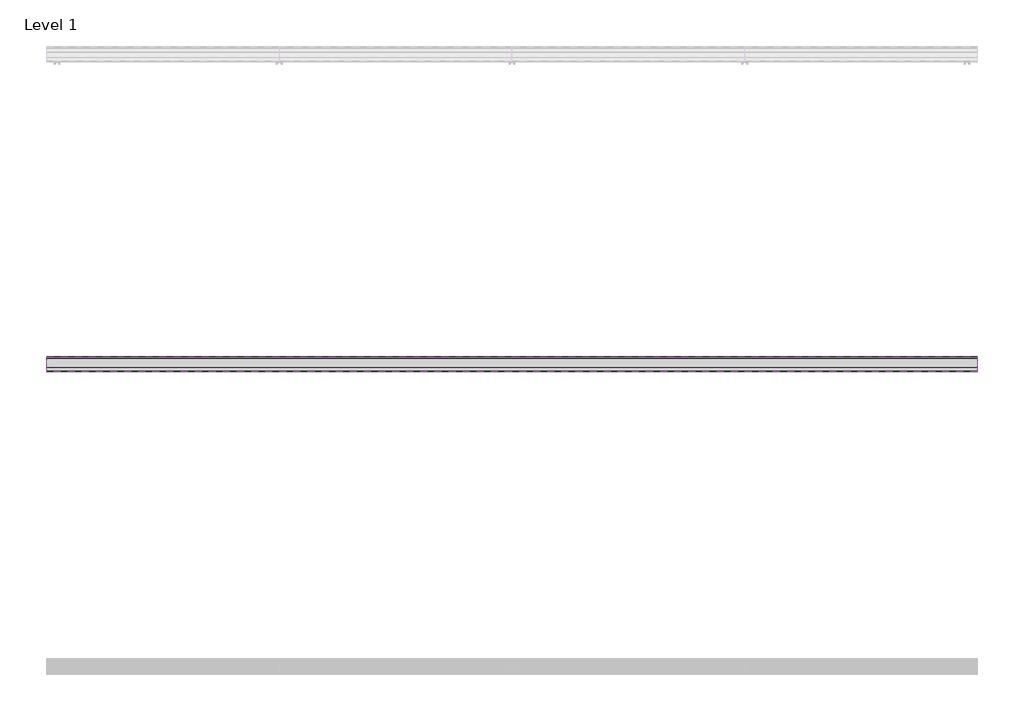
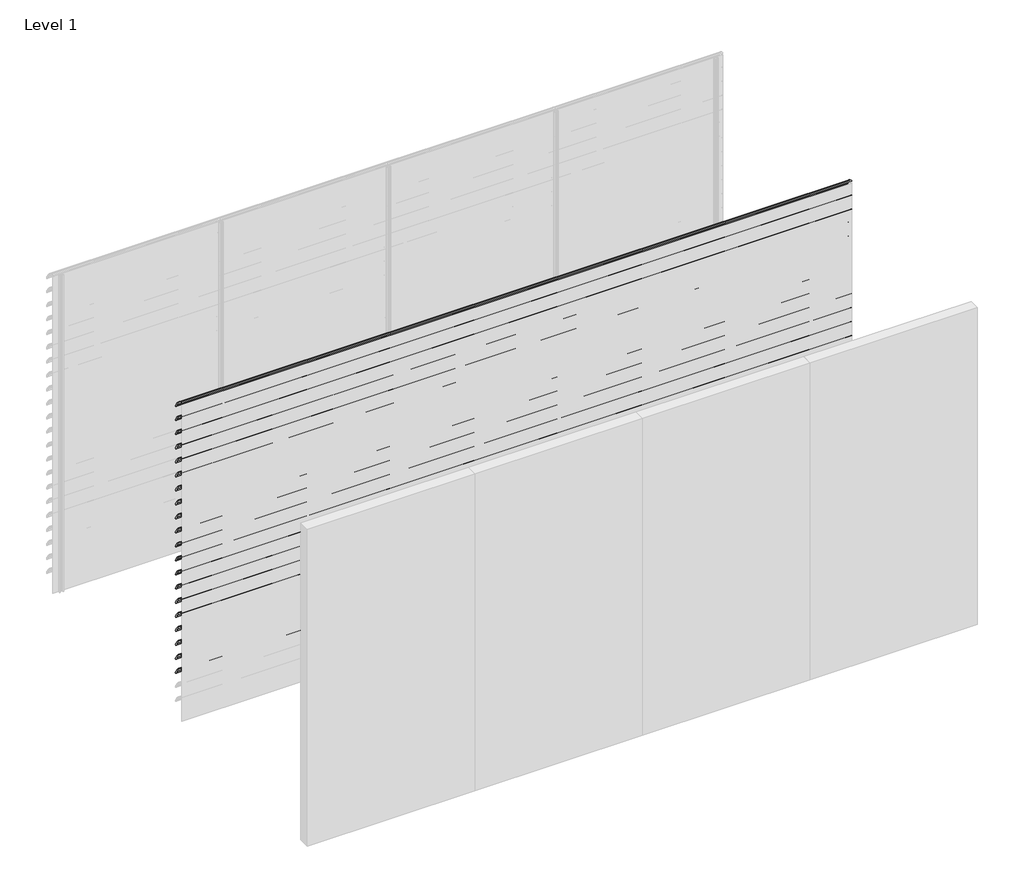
# One storey, part 47 of 57: 20 proxies.
"""IFC4 building model written with IfcOpenShell, lengths in millimetres."""

from ifc_helpers import new_model, si_unit, point, frame, frame_2d, origin, place, context, project, spatial, polyline, circle_curve, trimmed, segment, composite_curve, outline, extrude, element, save

model = new_model("IFC4")

# Units and contexts
model_context = context("Model", 3, world=origin())
ifc_project = project(units=[si_unit("LENGTHUNIT", "METRE", prefix="MILLI")], contexts=[model_context])

# Site, building, storey
site = spatial("IfcSite", under=ifc_project)
building = spatial("IfcBuilding", under=site)
storey = spatial("IfcBuildingStorey", under=building, Name="Level 1", Elevation=0.0)

# Proxies
placement = place(None, origin())
element("IfcBuildingElementProxy", 1, Name="Wall Sweeps", at=placement, inside=storey, context=model_context, shape_type="SweptSolid", body=[
    extrude(outline(composite_curve([segment(trimmed(circle_curve(frame_2d((-7993.7822526, 3016.4913792)), 4.2177474), [point((-7989.6985606, 3017.5462976))], [point((-7993.7822526, 3020.7091266))], False, "CARTESIAN"), True, "CONTINUOUS"), segment(trimmed(circle_curve(frame_2d((-8018.7150834, 2918.2536312)), 105.4456002), [point((-7993.7822526, 3020.7091266))], [point((-7971.7914298, 3012.6832099))], False, "CARTESIAN"), True, "CONTINUOUS"), segment(trimmed(circle_curve(frame_2d((-8061.7199745, 2864.0352476)), 173.7335887), [point((-7971.7914298, 3012.6832099))], [point((-7913.0720121, 2953.9637922))], False, "CARTESIAN"), True, "CONTINUOUS"), segment(trimmed(circle_curve(frame_2d((-8004.9297178, 2902.1860314)), 105.4456002), [point((-7913.0720121, 2953.9637922))], [point((-7903.6249616, 2931.4455765))], False, "CARTESIAN"), True, "CONTINUOUS"), segment(trimmed(circle_curve(frame_2d((-7907.809737, 2930.3307305)), 4.3307305), [point((-7903.6249616, 2931.4455765))], [point((-7909.0769196, 2926.189538))], False, "CARTESIAN"), True, "CONTINUOUS"), segment(polyline([(-7909.0769196, 2926.189538), (-7934.7401984, 2950.9722783)]), True, "CONTINUOUS"), segment(trimmed(circle_curve(frame_2d((-7931.3879574, 2953.2977626)), 4.079877), [point((-7934.7401984, 2950.9722783))], [point((-7930.7310597, 2957.3244091))], False, "CARTESIAN"), True, "CONTINUOUS"), segment(trimmed(circle_curve(frame_2d((-8014.6665585, 2935.2544323)), 86.7885467), [point((-7930.7310597, 2957.3244091))], [point((-7942.3028351, 2983.1683485))], True, "CARTESIAN"), True, "CONTINUOUS"), segment(polyline([(-7942.3028351, 2983.1683485), (-7940.7230099, 2985.9046861)]), True, "CONTINUOUS"), segment(trimmed(circle_curve(frame_2d((-8061.7199745, 2864.0352476)), 171.7335887), [point((-7940.7230099, 2985.9046861))], [point((-7972.7555872, 3010.9289618))], True, "CARTESIAN"), True, "CONTINUOUS"), segment(trimmed(circle_curve(frame_2d((-8018.7150834, 2918.2536312)), 103.4456002), [point((-7972.7555872, 3010.9289618))], [point((-7989.6985606, 3017.5462976))], True, "CARTESIAN"), True, "CONTINUOUS")], self_intersect=False)), frame((0.0, 0.0, 0.0), z_axis=(1.0, 0.0, 0.0), x_axis=(0.0, 1.0, 0.0)), (0.0, 0.0, 1.0), 6000.0),
])
element("IfcBuildingElementProxy", 2, Name="Wall Sweeps", at=placement, inside=storey, context=model_context, shape_type="SweptSolid", body=[
    extrude(outline(composite_curve([segment(trimmed(circle_curve(frame_2d((-7993.7822526, 2883.4913792)), 4.2177474), [point((-7989.6985606, 2884.5462976))], [point((-7993.7822526, 2887.7091266))], False, "CARTESIAN"), True, "CONTINUOUS"), segment(trimmed(circle_curve(frame_2d((-8018.7150834, 2785.2536312)), 105.4456002), [point((-7993.7822526, 2887.7091266))], [point((-7971.7914298, 2879.6832099))], False, "CARTESIAN"), True, "CONTINUOUS"), segment(trimmed(circle_curve(frame_2d((-8061.7199745, 2731.0352476)), 173.7335887), [point((-7971.7914298, 2879.6832099))], [point((-7913.0720121, 2820.9637922))], False, "CARTESIAN"), True, "CONTINUOUS"), segment(trimmed(circle_curve(frame_2d((-8004.9297178, 2769.1860314)), 105.4456002), [point((-7913.0720121, 2820.9637922))], [point((-7903.6249616, 2798.4455765))], False, "CARTESIAN"), True, "CONTINUOUS"), segment(trimmed(circle_curve(frame_2d((-7907.809737, 2797.3307305)), 4.3307305), [point((-7903.6249616, 2798.4455765))], [point((-7909.0769196, 2793.189538))], False, "CARTESIAN"), True, "CONTINUOUS"), segment(polyline([(-7909.0769196, 2793.189538), (-7934.7401984, 2817.9722783)]), True, "CONTINUOUS"), segment(trimmed(circle_curve(frame_2d((-7931.3879574, 2820.2977626)), 4.079877), [point((-7934.7401984, 2817.9722783))], [point((-7930.7310597, 2824.3244091))], False, "CARTESIAN"), True, "CONTINUOUS"), segment(trimmed(circle_curve(frame_2d((-8014.6665585, 2802.2544323)), 86.7885467), [point((-7930.7310597, 2824.3244091))], [point((-7942.3028351, 2850.1683485))], True, "CARTESIAN"), True, "CONTINUOUS"), segment(polyline([(-7942.3028351, 2850.1683485), (-7940.7230099, 2852.9046861)]), True, "CONTINUOUS"), segment(trimmed(circle_curve(frame_2d((-8061.7199745, 2731.0352476)), 171.7335887), [point((-7940.7230099, 2852.9046861))], [point((-7972.7555872, 2877.9289618))], True, "CARTESIAN"), True, "CONTINUOUS"), segment(trimmed(circle_curve(frame_2d((-8018.7150834, 2785.2536312)), 103.4456002), [point((-7972.7555872, 2877.9289618))], [point((-7989.6985606, 2884.5462976))], True, "CARTESIAN"), True, "CONTINUOUS")], self_intersect=False)), frame((0.0, 0.0, 0.0), z_axis=(1.0, 0.0, 0.0), x_axis=(0.0, 1.0, 0.0)), (0.0, 0.0, 1.0), 6000.0),
])
element("IfcBuildingElementProxy", 3, Name="Wall Sweeps", at=placement, inside=storey, context=model_context, shape_type="SweptSolid", body=[
    extrude(outline(composite_curve([segment(trimmed(circle_curve(frame_2d((-7993.7822526, 2750.4913792)), 4.2177474), [point((-7989.6985606, 2751.5462976))], [point((-7993.7822526, 2754.7091266))], False, "CARTESIAN"), True, "CONTINUOUS"), segment(trimmed(circle_curve(frame_2d((-8018.7150834, 2652.2536312)), 105.4456002), [point((-7993.7822526, 2754.7091266))], [point((-7971.7914298, 2746.6832099))], False, "CARTESIAN"), True, "CONTINUOUS"), segment(trimmed(circle_curve(frame_2d((-8061.7199745, 2598.0352476)), 173.7335887), [point((-7971.7914298, 2746.6832099))], [point((-7913.0720121, 2687.9637922))], False, "CARTESIAN"), True, "CONTINUOUS"), segment(trimmed(circle_curve(frame_2d((-8004.9297178, 2636.1860314)), 105.4456002), [point((-7913.0720121, 2687.9637922))], [point((-7903.6249616, 2665.4455765))], False, "CARTESIAN"), True, "CONTINUOUS"), segment(trimmed(circle_curve(frame_2d((-7907.809737, 2664.3307305)), 4.3307305), [point((-7903.6249616, 2665.4455765))], [point((-7909.0769196, 2660.189538))], False, "CARTESIAN"), True, "CONTINUOUS"), segment(polyline([(-7909.0769196, 2660.189538), (-7934.7401984, 2684.9722783)]), True, "CONTINUOUS"), segment(trimmed(circle_curve(frame_2d((-7931.3879574, 2687.2977626)), 4.079877), [point((-7934.7401984, 2684.9722783))], [point((-7930.7310597, 2691.3244091))], False, "CARTESIAN"), True, "CONTINUOUS"), segment(trimmed(circle_curve(frame_2d((-8014.6665585, 2669.2544323)), 86.7885467), [point((-7930.7310597, 2691.3244091))], [point((-7942.3028351, 2717.1683485))], True, "CARTESIAN"), True, "CONTINUOUS"), segment(polyline([(-7942.3028351, 2717.1683485), (-7940.7230099, 2719.9046861)]), True, "CONTINUOUS"), segment(trimmed(circle_curve(frame_2d((-8061.7199745, 2598.0352476)), 171.7335887), [point((-7940.7230099, 2719.9046861))], [point((-7972.7555872, 2744.9289618))], True, "CARTESIAN"), True, "CONTINUOUS"), segment(trimmed(circle_curve(frame_2d((-8018.7150834, 2652.2536312)), 103.4456002), [point((-7972.7555872, 2744.9289618))], [point((-7989.6985606, 2751.5462976))], True, "CARTESIAN"), True, "CONTINUOUS")], self_intersect=False)), frame((0.0, 0.0, 0.0), z_axis=(1.0, 0.0, 0.0), x_axis=(0.0, 1.0, 0.0)), (0.0, 0.0, 1.0), 6000.0),
])
element("IfcBuildingElementProxy", 4, Name="Wall Sweeps", at=placement, inside=storey, context=model_context, shape_type="SweptSolid", body=[
    extrude(outline(composite_curve([segment(trimmed(circle_curve(frame_2d((-7993.7822526, 2617.4913792)), 4.2177474), [point((-7989.6985606, 2618.5462976))], [point((-7993.7822526, 2621.7091266))], False, "CARTESIAN"), True, "CONTINUOUS"), segment(trimmed(circle_curve(frame_2d((-8018.7150834, 2519.2536312)), 105.4456002), [point((-7993.7822526, 2621.7091266))], [point((-7971.7914298, 2613.6832099))], False, "CARTESIAN"), True, "CONTINUOUS"), segment(trimmed(circle_curve(frame_2d((-8061.7199745, 2465.0352476)), 173.7335887), [point((-7971.7914298, 2613.6832099))], [point((-7913.0720121, 2554.9637922))], False, "CARTESIAN"), True, "CONTINUOUS"), segment(trimmed(circle_curve(frame_2d((-8004.9297178, 2503.1860314)), 105.4456002), [point((-7913.0720121, 2554.9637922))], [point((-7903.6249616, 2532.4455765))], False, "CARTESIAN"), True, "CONTINUOUS"), segment(trimmed(circle_curve(frame_2d((-7907.809737, 2531.3307305)), 4.3307305), [point((-7903.6249616, 2532.4455765))], [point((-7909.0769196, 2527.189538))], False, "CARTESIAN"), True, "CONTINUOUS"), segment(polyline([(-7909.0769196, 2527.189538), (-7934.7401984, 2551.9722783)]), True, "CONTINUOUS"), segment(trimmed(circle_curve(frame_2d((-7931.3879574, 2554.2977626)), 4.079877), [point((-7934.7401984, 2551.9722783))], [point((-7930.7310597, 2558.3244091))], False, "CARTESIAN"), True, "CONTINUOUS"), segment(trimmed(circle_curve(frame_2d((-8014.6665585, 2536.2544323)), 86.7885467), [point((-7930.7310597, 2558.3244091))], [point((-7942.3028351, 2584.1683485))], True, "CARTESIAN"), True, "CONTINUOUS"), segment(polyline([(-7942.3028351, 2584.1683485), (-7940.7230099, 2586.9046861)]), True, "CONTINUOUS"), segment(trimmed(circle_curve(frame_2d((-8061.7199745, 2465.0352476)), 171.7335887), [point((-7940.7230099, 2586.9046861))], [point((-7972.7555872, 2611.9289618))], True, "CARTESIAN"), True, "CONTINUOUS"), segment(trimmed(circle_curve(frame_2d((-8018.7150834, 2519.2536312)), 103.4456002), [point((-7972.7555872, 2611.9289618))], [point((-7989.6985606, 2618.5462976))], True, "CARTESIAN"), True, "CONTINUOUS")], self_intersect=False)), frame((0.0, 0.0, 0.0), z_axis=(1.0, 0.0, 0.0), x_axis=(0.0, 1.0, 0.0)), (0.0, 0.0, 1.0), 6000.0),
])
element("IfcBuildingElementProxy", 5, Name="Wall Sweeps", at=placement, inside=storey, context=model_context, shape_type="SweptSolid", body=[
    extrude(outline(composite_curve([segment(trimmed(circle_curve(frame_2d((-7993.7822526, 2484.4913792)), 4.2177474), [point((-7989.6985606, 2485.5462976))], [point((-7993.7822526, 2488.7091266))], False, "CARTESIAN"), True, "CONTINUOUS"), segment(trimmed(circle_curve(frame_2d((-8018.7150834, 2386.2536312)), 105.4456002), [point((-7993.7822526, 2488.7091266))], [point((-7971.7914298, 2480.6832099))], False, "CARTESIAN"), True, "CONTINUOUS"), segment(trimmed(circle_curve(frame_2d((-8061.7199745, 2332.0352476)), 173.7335887), [point((-7971.7914298, 2480.6832099))], [point((-7913.0720121, 2421.9637922))], False, "CARTESIAN"), True, "CONTINUOUS"), segment(trimmed(circle_curve(frame_2d((-8004.9297178, 2370.1860314)), 105.4456002), [point((-7913.0720121, 2421.9637922))], [point((-7903.6249616, 2399.4455765))], False, "CARTESIAN"), True, "CONTINUOUS"), segment(trimmed(circle_curve(frame_2d((-7907.809737, 2398.3307305)), 4.3307305), [point((-7903.6249616, 2399.4455765))], [point((-7909.0769196, 2394.189538))], False, "CARTESIAN"), True, "CONTINUOUS"), segment(polyline([(-7909.0769196, 2394.189538), (-7934.7401984, 2418.9722783)]), True, "CONTINUOUS"), segment(trimmed(circle_curve(frame_2d((-7931.3879574, 2421.2977626)), 4.079877), [point((-7934.7401984, 2418.9722783))], [point((-7930.7310597, 2425.3244091))], False, "CARTESIAN"), True, "CONTINUOUS"), segment(trimmed(circle_curve(frame_2d((-8014.6665585, 2403.2544323)), 86.7885467), [point((-7930.7310597, 2425.3244091))], [point((-7942.3028351, 2451.1683485))], True, "CARTESIAN"), True, "CONTINUOUS"), segment(polyline([(-7942.3028351, 2451.1683485), (-7940.7230099, 2453.9046861)]), True, "CONTINUOUS"), segment(trimmed(circle_curve(frame_2d((-8061.7199745, 2332.0352476)), 171.7335887), [point((-7940.7230099, 2453.9046861))], [point((-7972.7555872, 2478.9289618))], True, "CARTESIAN"), True, "CONTINUOUS"), segment(trimmed(circle_curve(frame_2d((-8018.7150834, 2386.2536312)), 103.4456002), [point((-7972.7555872, 2478.9289618))], [point((-7989.6985606, 2485.5462976))], True, "CARTESIAN"), True, "CONTINUOUS")], self_intersect=False)), frame((0.0, 0.0, 0.0), z_axis=(1.0, 0.0, 0.0), x_axis=(0.0, 1.0, 0.0)), (0.0, 0.0, 1.0), 6000.0),
])
element("IfcBuildingElementProxy", 6, Name="Wall Sweeps", at=placement, inside=storey, context=model_context, shape_type="SweptSolid", body=[
    extrude(outline(composite_curve([segment(trimmed(circle_curve(frame_2d((-7993.7822526, 2351.4913792)), 4.2177474), [point((-7989.6985606, 2352.5462976))], [point((-7993.7822526, 2355.7091266))], False, "CARTESIAN"), True, "CONTINUOUS"), segment(trimmed(circle_curve(frame_2d((-8018.7150834, 2253.2536312)), 105.4456002), [point((-7993.7822526, 2355.7091266))], [point((-7971.7914298, 2347.6832099))], False, "CARTESIAN"), True, "CONTINUOUS"), segment(trimmed(circle_curve(frame_2d((-8061.7199745, 2199.0352476)), 173.7335887), [point((-7971.7914298, 2347.6832099))], [point((-7913.0720121, 2288.9637922))], False, "CARTESIAN"), True, "CONTINUOUS"), segment(trimmed(circle_curve(frame_2d((-8004.9297178, 2237.1860314)), 105.4456002), [point((-7913.0720121, 2288.9637922))], [point((-7903.6249616, 2266.4455765))], False, "CARTESIAN"), True, "CONTINUOUS"), segment(trimmed(circle_curve(frame_2d((-7907.809737, 2265.3307305)), 4.3307305), [point((-7903.6249616, 2266.4455765))], [point((-7909.0769196, 2261.189538))], False, "CARTESIAN"), True, "CONTINUOUS"), segment(polyline([(-7909.0769196, 2261.189538), (-7934.7401984, 2285.9722783)]), True, "CONTINUOUS"), segment(trimmed(circle_curve(frame_2d((-7931.3879574, 2288.2977626)), 4.079877), [point((-7934.7401984, 2285.9722783))], [point((-7930.7310597, 2292.3244091))], False, "CARTESIAN"), True, "CONTINUOUS"), segment(trimmed(circle_curve(frame_2d((-8014.6665585, 2270.2544323)), 86.7885467), [point((-7930.7310597, 2292.3244091))], [point((-7942.3028351, 2318.1683485))], True, "CARTESIAN"), True, "CONTINUOUS"), segment(polyline([(-7942.3028351, 2318.1683485), (-7940.7230099, 2320.9046861)]), True, "CONTINUOUS"), segment(trimmed(circle_curve(frame_2d((-8061.7199745, 2199.0352476)), 171.7335887), [point((-7940.7230099, 2320.9046861))], [point((-7972.7555872, 2345.9289618))], True, "CARTESIAN"), True, "CONTINUOUS"), segment(trimmed(circle_curve(frame_2d((-8018.7150834, 2253.2536312)), 103.4456002), [point((-7972.7555872, 2345.9289618))], [point((-7989.6985606, 2352.5462976))], True, "CARTESIAN"), True, "CONTINUOUS")], self_intersect=False)), frame((0.0, 0.0, 0.0), z_axis=(1.0, 0.0, 0.0), x_axis=(0.0, 1.0, 0.0)), (0.0, 0.0, 1.0), 6000.0),
])
element("IfcBuildingElementProxy", 7, Name="Wall Sweeps", at=placement, inside=storey, context=model_context, shape_type="SweptSolid", body=[
    extrude(outline(composite_curve([segment(trimmed(circle_curve(frame_2d((-7993.7822526, 2218.4913792)), 4.2177474), [point((-7989.6985606, 2219.5462976))], [point((-7993.7822526, 2222.7091266))], False, "CARTESIAN"), True, "CONTINUOUS"), segment(trimmed(circle_curve(frame_2d((-8018.7150834, 2120.2536312)), 105.4456002), [point((-7993.7822526, 2222.7091266))], [point((-7971.7914298, 2214.6832099))], False, "CARTESIAN"), True, "CONTINUOUS"), segment(trimmed(circle_curve(frame_2d((-8061.7199745, 2066.0352476)), 173.7335887), [point((-7971.7914298, 2214.6832099))], [point((-7913.0720121, 2155.9637922))], False, "CARTESIAN"), True, "CONTINUOUS"), segment(trimmed(circle_curve(frame_2d((-8004.9297178, 2104.1860314)), 105.4456002), [point((-7913.0720121, 2155.9637922))], [point((-7903.6249616, 2133.4455765))], False, "CARTESIAN"), True, "CONTINUOUS"), segment(trimmed(circle_curve(frame_2d((-7907.809737, 2132.3307305)), 4.3307305), [point((-7903.6249616, 2133.4455765))], [point((-7909.0769196, 2128.189538))], False, "CARTESIAN"), True, "CONTINUOUS"), segment(polyline([(-7909.0769196, 2128.189538), (-7934.7401984, 2152.9722783)]), True, "CONTINUOUS"), segment(trimmed(circle_curve(frame_2d((-7931.3879574, 2155.2977626)), 4.079877), [point((-7934.7401984, 2152.9722783))], [point((-7930.7310597, 2159.3244091))], False, "CARTESIAN"), True, "CONTINUOUS"), segment(trimmed(circle_curve(frame_2d((-8014.6665585, 2137.2544323)), 86.7885467), [point((-7930.7310597, 2159.3244091))], [point((-7942.3028351, 2185.1683485))], True, "CARTESIAN"), True, "CONTINUOUS"), segment(polyline([(-7942.3028351, 2185.1683485), (-7940.7230099, 2187.9046861)]), True, "CONTINUOUS"), segment(trimmed(circle_curve(frame_2d((-8061.7199745, 2066.0352476)), 171.7335887), [point((-7940.7230099, 2187.9046861))], [point((-7972.7555872, 2212.9289618))], True, "CARTESIAN"), True, "CONTINUOUS"), segment(trimmed(circle_curve(frame_2d((-8018.7150834, 2120.2536312)), 103.4456002), [point((-7972.7555872, 2212.9289618))], [point((-7989.6985606, 2219.5462976))], True, "CARTESIAN"), True, "CONTINUOUS")], self_intersect=False)), frame((0.0, 0.0, 0.0), z_axis=(1.0, 0.0, 0.0), x_axis=(0.0, 1.0, 0.0)), (0.0, 0.0, 1.0), 6000.0),
])
element("IfcBuildingElementProxy", 8, Name="Wall Sweeps", at=placement, inside=storey, context=model_context, shape_type="SweptSolid", body=[
    extrude(outline(composite_curve([segment(trimmed(circle_curve(frame_2d((-7993.7822526, 2085.4913792)), 4.2177474), [point((-7989.6985606, 2086.5462976))], [point((-7993.7822526, 2089.7091266))], False, "CARTESIAN"), True, "CONTINUOUS"), segment(trimmed(circle_curve(frame_2d((-8018.7150834, 1987.2536312)), 105.4456002), [point((-7993.7822526, 2089.7091266))], [point((-7971.7914298, 2081.6832099))], False, "CARTESIAN"), True, "CONTINUOUS"), segment(trimmed(circle_curve(frame_2d((-8061.7199745, 1933.0352476)), 173.7335887), [point((-7971.7914298, 2081.6832099))], [point((-7913.0720121, 2022.9637922))], False, "CARTESIAN"), True, "CONTINUOUS"), segment(trimmed(circle_curve(frame_2d((-8004.9297178, 1971.1860314)), 105.4456002), [point((-7913.0720121, 2022.9637922))], [point((-7903.6249616, 2000.4455765))], False, "CARTESIAN"), True, "CONTINUOUS"), segment(trimmed(circle_curve(frame_2d((-7907.809737, 1999.3307305)), 4.3307305), [point((-7903.6249616, 2000.4455765))], [point((-7909.0769196, 1995.189538))], False, "CARTESIAN"), True, "CONTINUOUS"), segment(polyline([(-7909.0769196, 1995.189538), (-7934.7401984, 2019.9722783)]), True, "CONTINUOUS"), segment(trimmed(circle_curve(frame_2d((-7931.3879574, 2022.2977626)), 4.079877), [point((-7934.7401984, 2019.9722783))], [point((-7930.7310597, 2026.3244091))], False, "CARTESIAN"), True, "CONTINUOUS"), segment(trimmed(circle_curve(frame_2d((-8014.6665585, 2004.2544323)), 86.7885467), [point((-7930.7310597, 2026.3244091))], [point((-7942.3028351, 2052.1683485))], True, "CARTESIAN"), True, "CONTINUOUS"), segment(polyline([(-7942.3028351, 2052.1683485), (-7940.7230099, 2054.9046861)]), True, "CONTINUOUS"), segment(trimmed(circle_curve(frame_2d((-8061.7199745, 1933.0352476)), 171.7335887), [point((-7940.7230099, 2054.9046861))], [point((-7972.7555872, 2079.9289618))], True, "CARTESIAN"), True, "CONTINUOUS"), segment(trimmed(circle_curve(frame_2d((-8018.7150834, 1987.2536312)), 103.4456002), [point((-7972.7555872, 2079.9289618))], [point((-7989.6985606, 2086.5462976))], True, "CARTESIAN"), True, "CONTINUOUS")], self_intersect=False)), frame((0.0, 0.0, 0.0), z_axis=(1.0, 0.0, 0.0), x_axis=(0.0, 1.0, 0.0)), (0.0, 0.0, 1.0), 6000.0),
])
element("IfcBuildingElementProxy", 9, Name="Wall Sweeps", at=placement, inside=storey, context=model_context, shape_type="SweptSolid", body=[
    extrude(outline(composite_curve([segment(trimmed(circle_curve(frame_2d((-7993.7822526, 1952.4913792)), 4.2177474), [point((-7989.6985606, 1953.5462976))], [point((-7993.7822526, 1956.7091266))], False, "CARTESIAN"), True, "CONTINUOUS"), segment(trimmed(circle_curve(frame_2d((-8018.7150834, 1854.2536312)), 105.4456002), [point((-7993.7822526, 1956.7091266))], [point((-7971.7914298, 1948.6832099))], False, "CARTESIAN"), True, "CONTINUOUS"), segment(trimmed(circle_curve(frame_2d((-8061.7199745, 1800.0352476)), 173.7335887), [point((-7971.7914298, 1948.6832099))], [point((-7913.0720121, 1889.9637922))], False, "CARTESIAN"), True, "CONTINUOUS"), segment(trimmed(circle_curve(frame_2d((-8004.9297178, 1838.1860314)), 105.4456002), [point((-7913.0720121, 1889.9637922))], [point((-7903.6249616, 1867.4455765))], False, "CARTESIAN"), True, "CONTINUOUS"), segment(trimmed(circle_curve(frame_2d((-7907.809737, 1866.3307305)), 4.3307305), [point((-7903.6249616, 1867.4455765))], [point((-7909.0769196, 1862.189538))], False, "CARTESIAN"), True, "CONTINUOUS"), segment(polyline([(-7909.0769196, 1862.189538), (-7934.7401984, 1886.9722783)]), True, "CONTINUOUS"), segment(trimmed(circle_curve(frame_2d((-7931.3879574, 1889.2977626)), 4.079877), [point((-7934.7401984, 1886.9722783))], [point((-7930.7310597, 1893.3244091))], False, "CARTESIAN"), True, "CONTINUOUS"), segment(trimmed(circle_curve(frame_2d((-8014.6665585, 1871.2544323)), 86.7885467), [point((-7930.7310597, 1893.3244091))], [point((-7942.3028351, 1919.1683485))], True, "CARTESIAN"), True, "CONTINUOUS"), segment(polyline([(-7942.3028351, 1919.1683485), (-7940.7230099, 1921.9046861)]), True, "CONTINUOUS"), segment(trimmed(circle_curve(frame_2d((-8061.7199745, 1800.0352476)), 171.7335887), [point((-7940.7230099, 1921.9046861))], [point((-7972.7555872, 1946.9289618))], True, "CARTESIAN"), True, "CONTINUOUS"), segment(trimmed(circle_curve(frame_2d((-8018.7150834, 1854.2536312)), 103.4456002), [point((-7972.7555872, 1946.9289618))], [point((-7989.6985606, 1953.5462976))], True, "CARTESIAN"), True, "CONTINUOUS")], self_intersect=False)), frame((0.0, 0.0, 0.0), z_axis=(1.0, 0.0, 0.0), x_axis=(0.0, 1.0, 0.0)), (0.0, 0.0, 1.0), 6000.0),
])
element("IfcBuildingElementProxy", 10, Name="Wall Sweeps", at=placement, inside=storey, context=model_context, shape_type="SweptSolid", body=[
    extrude(outline(composite_curve([segment(trimmed(circle_curve(frame_2d((-7993.7822526, 1819.4913792)), 4.2177474), [point((-7989.6985606, 1820.5462976))], [point((-7993.7822526, 1823.7091266))], False, "CARTESIAN"), True, "CONTINUOUS"), segment(trimmed(circle_curve(frame_2d((-8018.7150834, 1721.2536312)), 105.4456002), [point((-7993.7822526, 1823.7091266))], [point((-7971.7914298, 1815.6832099))], False, "CARTESIAN"), True, "CONTINUOUS"), segment(trimmed(circle_curve(frame_2d((-8061.7199745, 1667.0352476)), 173.7335887), [point((-7971.7914298, 1815.6832099))], [point((-7913.0720121, 1756.9637922))], False, "CARTESIAN"), True, "CONTINUOUS"), segment(trimmed(circle_curve(frame_2d((-8004.9297178, 1705.1860314)), 105.4456002), [point((-7913.0720121, 1756.9637922))], [point((-7903.6249616, 1734.4455765))], False, "CARTESIAN"), True, "CONTINUOUS"), segment(trimmed(circle_curve(frame_2d((-7907.809737, 1733.3307305)), 4.3307305), [point((-7903.6249616, 1734.4455765))], [point((-7909.0769196, 1729.189538))], False, "CARTESIAN"), True, "CONTINUOUS"), segment(polyline([(-7909.0769196, 1729.189538), (-7934.7401984, 1753.9722783)]), True, "CONTINUOUS"), segment(trimmed(circle_curve(frame_2d((-7931.3879574, 1756.2977626)), 4.079877), [point((-7934.7401984, 1753.9722783))], [point((-7930.7310597, 1760.3244091))], False, "CARTESIAN"), True, "CONTINUOUS"), segment(trimmed(circle_curve(frame_2d((-8014.6665585, 1738.2544323)), 86.7885467), [point((-7930.7310597, 1760.3244091))], [point((-7942.3028351, 1786.1683485))], True, "CARTESIAN"), True, "CONTINUOUS"), segment(polyline([(-7942.3028351, 1786.1683485), (-7940.7230099, 1788.9046861)]), True, "CONTINUOUS"), segment(trimmed(circle_curve(frame_2d((-8061.7199745, 1667.0352476)), 171.7335887), [point((-7940.7230099, 1788.9046861))], [point((-7972.7555872, 1813.9289618))], True, "CARTESIAN"), True, "CONTINUOUS"), segment(trimmed(circle_curve(frame_2d((-8018.7150834, 1721.2536312)), 103.4456002), [point((-7972.7555872, 1813.9289618))], [point((-7989.6985606, 1820.5462976))], True, "CARTESIAN"), True, "CONTINUOUS")], self_intersect=False)), frame((0.0, 0.0, 0.0), z_axis=(1.0, 0.0, 0.0), x_axis=(0.0, 1.0, 0.0)), (0.0, 0.0, 1.0), 6000.0),
])
element("IfcBuildingElementProxy", 11, Name="Wall Sweeps", at=placement, inside=storey, context=model_context, shape_type="SweptSolid", body=[
    extrude(outline(composite_curve([segment(trimmed(circle_curve(frame_2d((-7993.7822526, 1686.4913792)), 4.2177474), [point((-7989.6985606, 1687.5462976))], [point((-7993.7822526, 1690.7091266))], False, "CARTESIAN"), True, "CONTINUOUS"), segment(trimmed(circle_curve(frame_2d((-8018.7150834, 1588.2536312)), 105.4456002), [point((-7993.7822526, 1690.7091266))], [point((-7971.7914298, 1682.6832099))], False, "CARTESIAN"), True, "CONTINUOUS"), segment(trimmed(circle_curve(frame_2d((-8061.7199745, 1534.0352476)), 173.7335887), [point((-7971.7914298, 1682.6832099))], [point((-7913.0720121, 1623.9637922))], False, "CARTESIAN"), True, "CONTINUOUS"), segment(trimmed(circle_curve(frame_2d((-8004.9297178, 1572.1860314)), 105.4456002), [point((-7913.0720121, 1623.9637922))], [point((-7903.6249616, 1601.4455765))], False, "CARTESIAN"), True, "CONTINUOUS"), segment(trimmed(circle_curve(frame_2d((-7907.809737, 1600.3307305)), 4.3307305), [point((-7903.6249616, 1601.4455765))], [point((-7909.0769196, 1596.189538))], False, "CARTESIAN"), True, "CONTINUOUS"), segment(polyline([(-7909.0769196, 1596.189538), (-7934.7401984, 1620.9722783)]), True, "CONTINUOUS"), segment(trimmed(circle_curve(frame_2d((-7931.3879574, 1623.2977626)), 4.079877), [point((-7934.7401984, 1620.9722783))], [point((-7930.7310597, 1627.3244091))], False, "CARTESIAN"), True, "CONTINUOUS"), segment(trimmed(circle_curve(frame_2d((-8014.6665585, 1605.2544323)), 86.7885467), [point((-7930.7310597, 1627.3244091))], [point((-7942.3028351, 1653.1683485))], True, "CARTESIAN"), True, "CONTINUOUS"), segment(polyline([(-7942.3028351, 1653.1683485), (-7940.7230099, 1655.9046861)]), True, "CONTINUOUS"), segment(trimmed(circle_curve(frame_2d((-8061.7199745, 1534.0352476)), 171.7335887), [point((-7940.7230099, 1655.9046861))], [point((-7972.7555872, 1680.9289618))], True, "CARTESIAN"), True, "CONTINUOUS"), segment(trimmed(circle_curve(frame_2d((-8018.7150834, 1588.2536312)), 103.4456002), [point((-7972.7555872, 1680.9289618))], [point((-7989.6985606, 1687.5462976))], True, "CARTESIAN"), True, "CONTINUOUS")], self_intersect=False)), frame((0.0, 0.0, 0.0), z_axis=(1.0, 0.0, 0.0), x_axis=(0.0, 1.0, 0.0)), (0.0, 0.0, 1.0), 6000.0),
])
element("IfcBuildingElementProxy", 12, Name="Wall Sweeps", at=placement, inside=storey, context=model_context, shape_type="SweptSolid", body=[
    extrude(outline(composite_curve([segment(trimmed(circle_curve(frame_2d((-7993.7822526, 1553.4913792)), 4.2177474), [point((-7989.6985606, 1554.5462976))], [point((-7993.7822526, 1557.7091266))], False, "CARTESIAN"), True, "CONTINUOUS"), segment(trimmed(circle_curve(frame_2d((-8018.7150834, 1455.2536312)), 105.4456002), [point((-7993.7822526, 1557.7091266))], [point((-7971.7914298, 1549.6832099))], False, "CARTESIAN"), True, "CONTINUOUS"), segment(trimmed(circle_curve(frame_2d((-8061.7199745, 1401.0352476)), 173.7335887), [point((-7971.7914298, 1549.6832099))], [point((-7913.0720121, 1490.9637922))], False, "CARTESIAN"), True, "CONTINUOUS"), segment(trimmed(circle_curve(frame_2d((-8004.9297178, 1439.1860314)), 105.4456002), [point((-7913.0720121, 1490.9637922))], [point((-7903.6249616, 1468.4455765))], False, "CARTESIAN"), True, "CONTINUOUS"), segment(trimmed(circle_curve(frame_2d((-7907.809737, 1467.3307305)), 4.3307305), [point((-7903.6249616, 1468.4455765))], [point((-7909.0769196, 1463.189538))], False, "CARTESIAN"), True, "CONTINUOUS"), segment(polyline([(-7909.0769196, 1463.189538), (-7934.7401984, 1487.9722783)]), True, "CONTINUOUS"), segment(trimmed(circle_curve(frame_2d((-7931.3879574, 1490.2977626)), 4.079877), [point((-7934.7401984, 1487.9722783))], [point((-7930.7310597, 1494.3244091))], False, "CARTESIAN"), True, "CONTINUOUS"), segment(trimmed(circle_curve(frame_2d((-8014.6665585, 1472.2544323)), 86.7885467), [point((-7930.7310597, 1494.3244091))], [point((-7942.3028351, 1520.1683485))], True, "CARTESIAN"), True, "CONTINUOUS"), segment(polyline([(-7942.3028351, 1520.1683485), (-7940.7230099, 1522.9046861)]), True, "CONTINUOUS"), segment(trimmed(circle_curve(frame_2d((-8061.7199745, 1401.0352476)), 171.7335887), [point((-7940.7230099, 1522.9046861))], [point((-7972.7555872, 1547.9289618))], True, "CARTESIAN"), True, "CONTINUOUS"), segment(trimmed(circle_curve(frame_2d((-8018.7150834, 1455.2536312)), 103.4456002), [point((-7972.7555872, 1547.9289618))], [point((-7989.6985606, 1554.5462976))], True, "CARTESIAN"), True, "CONTINUOUS")], self_intersect=False)), frame((0.0, 0.0, 0.0), z_axis=(1.0, 0.0, 0.0), x_axis=(0.0, 1.0, 0.0)), (0.0, 0.0, 1.0), 6000.0),
])
element("IfcBuildingElementProxy", 13, Name="Wall Sweeps", at=placement, inside=storey, context=model_context, shape_type="SweptSolid", body=[
    extrude(outline(composite_curve([segment(trimmed(circle_curve(frame_2d((-7993.7822526, 1420.4913792)), 4.2177474), [point((-7989.6985606, 1421.5462976))], [point((-7993.7822526, 1424.7091266))], False, "CARTESIAN"), True, "CONTINUOUS"), segment(trimmed(circle_curve(frame_2d((-8018.7150834, 1322.2536312)), 105.4456002), [point((-7993.7822526, 1424.7091266))], [point((-7971.7914298, 1416.6832099))], False, "CARTESIAN"), True, "CONTINUOUS"), segment(trimmed(circle_curve(frame_2d((-8061.7199745, 1268.0352476)), 173.7335887), [point((-7971.7914298, 1416.6832099))], [point((-7913.0720121, 1357.9637922))], False, "CARTESIAN"), True, "CONTINUOUS"), segment(trimmed(circle_curve(frame_2d((-8004.9297178, 1306.1860314)), 105.4456002), [point((-7913.0720121, 1357.9637922))], [point((-7903.6249616, 1335.4455765))], False, "CARTESIAN"), True, "CONTINUOUS"), segment(trimmed(circle_curve(frame_2d((-7907.809737, 1334.3307305)), 4.3307305), [point((-7903.6249616, 1335.4455765))], [point((-7909.0769196, 1330.189538))], False, "CARTESIAN"), True, "CONTINUOUS"), segment(polyline([(-7909.0769196, 1330.189538), (-7934.7401984, 1354.9722783)]), True, "CONTINUOUS"), segment(trimmed(circle_curve(frame_2d((-7931.3879574, 1357.2977626)), 4.079877), [point((-7934.7401984, 1354.9722783))], [point((-7930.7310597, 1361.3244091))], False, "CARTESIAN"), True, "CONTINUOUS"), segment(trimmed(circle_curve(frame_2d((-8014.6665585, 1339.2544323)), 86.7885467), [point((-7930.7310597, 1361.3244091))], [point((-7942.3028351, 1387.1683485))], True, "CARTESIAN"), True, "CONTINUOUS"), segment(polyline([(-7942.3028351, 1387.1683485), (-7940.7230099, 1389.9046861)]), True, "CONTINUOUS"), segment(trimmed(circle_curve(frame_2d((-8061.7199745, 1268.0352476)), 171.7335887), [point((-7940.7230099, 1389.9046861))], [point((-7972.7555872, 1414.9289618))], True, "CARTESIAN"), True, "CONTINUOUS"), segment(trimmed(circle_curve(frame_2d((-8018.7150834, 1322.2536312)), 103.4456002), [point((-7972.7555872, 1414.9289618))], [point((-7989.6985606, 1421.5462976))], True, "CARTESIAN"), True, "CONTINUOUS")], self_intersect=False)), frame((0.0, 0.0, 0.0), z_axis=(1.0, 0.0, 0.0), x_axis=(0.0, 1.0, 0.0)), (0.0, 0.0, 1.0), 6000.0),
])
element("IfcBuildingElementProxy", 14, Name="Wall Sweeps", at=placement, inside=storey, context=model_context, shape_type="SweptSolid", body=[
    extrude(outline(composite_curve([segment(trimmed(circle_curve(frame_2d((-7993.7822526, 1287.4913792)), 4.2177474), [point((-7989.6985606, 1288.5462976))], [point((-7993.7822526, 1291.7091266))], False, "CARTESIAN"), True, "CONTINUOUS"), segment(trimmed(circle_curve(frame_2d((-8018.7150834, 1189.2536312)), 105.4456002), [point((-7993.7822526, 1291.7091266))], [point((-7971.7914298, 1283.6832099))], False, "CARTESIAN"), True, "CONTINUOUS"), segment(trimmed(circle_curve(frame_2d((-8061.7199745, 1135.0352476)), 173.7335887), [point((-7971.7914298, 1283.6832099))], [point((-7913.0720121, 1224.9637922))], False, "CARTESIAN"), True, "CONTINUOUS"), segment(trimmed(circle_curve(frame_2d((-8004.9297178, 1173.1860314)), 105.4456002), [point((-7913.0720121, 1224.9637922))], [point((-7903.6249616, 1202.4455765))], False, "CARTESIAN"), True, "CONTINUOUS"), segment(trimmed(circle_curve(frame_2d((-7907.809737, 1201.3307305)), 4.3307305), [point((-7903.6249616, 1202.4455765))], [point((-7909.0769196, 1197.189538))], False, "CARTESIAN"), True, "CONTINUOUS"), segment(polyline([(-7909.0769196, 1197.189538), (-7934.7401984, 1221.9722783)]), True, "CONTINUOUS"), segment(trimmed(circle_curve(frame_2d((-7931.3879574, 1224.2977626)), 4.079877), [point((-7934.7401984, 1221.9722783))], [point((-7930.7310597, 1228.3244091))], False, "CARTESIAN"), True, "CONTINUOUS"), segment(trimmed(circle_curve(frame_2d((-8014.6665585, 1206.2544323)), 86.7885467), [point((-7930.7310597, 1228.3244091))], [point((-7942.3028351, 1254.1683485))], True, "CARTESIAN"), True, "CONTINUOUS"), segment(polyline([(-7942.3028351, 1254.1683485), (-7940.7230099, 1256.9046861)]), True, "CONTINUOUS"), segment(trimmed(circle_curve(frame_2d((-8061.7199745, 1135.0352476)), 171.7335887), [point((-7940.7230099, 1256.9046861))], [point((-7972.7555872, 1281.9289618))], True, "CARTESIAN"), True, "CONTINUOUS"), segment(trimmed(circle_curve(frame_2d((-8018.7150834, 1189.2536312)), 103.4456002), [point((-7972.7555872, 1281.9289618))], [point((-7989.6985606, 1288.5462976))], True, "CARTESIAN"), True, "CONTINUOUS")], self_intersect=False)), frame((0.0, 0.0, 0.0), z_axis=(1.0, 0.0, 0.0), x_axis=(0.0, 1.0, 0.0)), (0.0, 0.0, 1.0), 6000.0),
])
element("IfcBuildingElementProxy", 15, Name="Wall Sweeps", at=placement, inside=storey, context=model_context, shape_type="SweptSolid", body=[
    extrude(outline(composite_curve([segment(trimmed(circle_curve(frame_2d((-7993.7822526, 1154.4913792)), 4.2177474), [point((-7989.6985606, 1155.5462976))], [point((-7993.7822526, 1158.7091266))], False, "CARTESIAN"), True, "CONTINUOUS"), segment(trimmed(circle_curve(frame_2d((-8018.7150834, 1056.2536312)), 105.4456002), [point((-7993.7822526, 1158.7091266))], [point((-7971.7914298, 1150.6832099))], False, "CARTESIAN"), True, "CONTINUOUS"), segment(trimmed(circle_curve(frame_2d((-8061.7199745, 1002.0352476)), 173.7335887), [point((-7971.7914298, 1150.6832099))], [point((-7913.0720121, 1091.9637922))], False, "CARTESIAN"), True, "CONTINUOUS"), segment(trimmed(circle_curve(frame_2d((-8004.9297178, 1040.1860314)), 105.4456002), [point((-7913.0720121, 1091.9637922))], [point((-7903.6249616, 1069.4455765))], False, "CARTESIAN"), True, "CONTINUOUS"), segment(trimmed(circle_curve(frame_2d((-7907.809737, 1068.3307305)), 4.3307305), [point((-7903.6249616, 1069.4455765))], [point((-7909.0769196, 1064.189538))], False, "CARTESIAN"), True, "CONTINUOUS"), segment(polyline([(-7909.0769196, 1064.189538), (-7934.7401984, 1088.9722783)]), True, "CONTINUOUS"), segment(trimmed(circle_curve(frame_2d((-7931.3879574, 1091.2977626)), 4.079877), [point((-7934.7401984, 1088.9722783))], [point((-7930.7310597, 1095.3244091))], False, "CARTESIAN"), True, "CONTINUOUS"), segment(trimmed(circle_curve(frame_2d((-8014.6665585, 1073.2544323)), 86.7885467), [point((-7930.7310597, 1095.3244091))], [point((-7942.3028351, 1121.1683485))], True, "CARTESIAN"), True, "CONTINUOUS"), segment(polyline([(-7942.3028351, 1121.1683485), (-7940.7230099, 1123.9046861)]), True, "CONTINUOUS"), segment(trimmed(circle_curve(frame_2d((-8061.7199745, 1002.0352476)), 171.7335887), [point((-7940.7230099, 1123.9046861))], [point((-7972.7555872, 1148.9289618))], True, "CARTESIAN"), True, "CONTINUOUS"), segment(trimmed(circle_curve(frame_2d((-8018.7150834, 1056.2536312)), 103.4456002), [point((-7972.7555872, 1148.9289618))], [point((-7989.6985606, 1155.5462976))], True, "CARTESIAN"), True, "CONTINUOUS")], self_intersect=False)), frame((0.0, 0.0, 0.0), z_axis=(1.0, 0.0, 0.0), x_axis=(0.0, 1.0, 0.0)), (0.0, 0.0, 1.0), 6000.0),
])
element("IfcBuildingElementProxy", 16, Name="Wall Sweeps", at=placement, inside=storey, context=model_context, shape_type="SweptSolid", body=[
    extrude(outline(composite_curve([segment(trimmed(circle_curve(frame_2d((-7993.7822526, 1021.4913792)), 4.2177474), [point((-7989.6985606, 1022.5462976))], [point((-7993.7822526, 1025.7091266))], False, "CARTESIAN"), True, "CONTINUOUS"), segment(trimmed(circle_curve(frame_2d((-8018.7150834, 923.2536312)), 105.4456002), [point((-7993.7822526, 1025.7091266))], [point((-7971.7914298, 1017.6832099))], False, "CARTESIAN"), True, "CONTINUOUS"), segment(trimmed(circle_curve(frame_2d((-8061.7199745, 869.0352476)), 173.7335887), [point((-7971.7914298, 1017.6832099))], [point((-7913.0720121, 958.9637922))], False, "CARTESIAN"), True, "CONTINUOUS"), segment(trimmed(circle_curve(frame_2d((-8004.9297178, 907.1860314)), 105.4456002), [point((-7913.0720121, 958.9637922))], [point((-7903.6249616, 936.4455765))], False, "CARTESIAN"), True, "CONTINUOUS"), segment(trimmed(circle_curve(frame_2d((-7907.809737, 935.3307305)), 4.3307305), [point((-7903.6249616, 936.4455765))], [point((-7909.0769196, 931.189538))], False, "CARTESIAN"), True, "CONTINUOUS"), segment(polyline([(-7909.0769196, 931.189538), (-7934.7401984, 955.9722783)]), True, "CONTINUOUS"), segment(trimmed(circle_curve(frame_2d((-7931.3879574, 958.2977626)), 4.079877), [point((-7934.7401984, 955.9722783))], [point((-7930.7310597, 962.3244091))], False, "CARTESIAN"), True, "CONTINUOUS"), segment(trimmed(circle_curve(frame_2d((-8014.6665585, 940.2544323)), 86.7885467), [point((-7930.7310597, 962.3244091))], [point((-7942.3028351, 988.1683485))], True, "CARTESIAN"), True, "CONTINUOUS"), segment(polyline([(-7942.3028351, 988.1683485), (-7940.7230099, 990.9046861)]), True, "CONTINUOUS"), segment(trimmed(circle_curve(frame_2d((-8061.7199745, 869.0352476)), 171.7335887), [point((-7940.7230099, 990.9046861))], [point((-7972.7555872, 1015.9289618))], True, "CARTESIAN"), True, "CONTINUOUS"), segment(trimmed(circle_curve(frame_2d((-8018.7150834, 923.2536312)), 103.4456002), [point((-7972.7555872, 1015.9289618))], [point((-7989.6985606, 1022.5462976))], True, "CARTESIAN"), True, "CONTINUOUS")], self_intersect=False)), frame((0.0, 0.0, 0.0), z_axis=(1.0, 0.0, 0.0), x_axis=(0.0, 1.0, 0.0)), (0.0, 0.0, 1.0), 6000.0),
])
element("IfcBuildingElementProxy", 17, Name="Wall Sweeps", at=placement, inside=storey, context=model_context, shape_type="SweptSolid", body=[
    extrude(outline(composite_curve([segment(trimmed(circle_curve(frame_2d((-7993.7822526, 888.4913792)), 4.2177474), [point((-7989.6985606, 889.5462976))], [point((-7993.7822526, 892.7091266))], False, "CARTESIAN"), True, "CONTINUOUS"), segment(trimmed(circle_curve(frame_2d((-8018.7150834, 790.2536312)), 105.4456002), [point((-7993.7822526, 892.7091266))], [point((-7971.7914298, 884.6832099))], False, "CARTESIAN"), True, "CONTINUOUS"), segment(trimmed(circle_curve(frame_2d((-8061.7199745, 736.0352476)), 173.7335887), [point((-7971.7914298, 884.6832099))], [point((-7913.0720121, 825.9637922))], False, "CARTESIAN"), True, "CONTINUOUS"), segment(trimmed(circle_curve(frame_2d((-8004.9297178, 774.1860314)), 105.4456002), [point((-7913.0720121, 825.9637922))], [point((-7903.6249616, 803.4455765))], False, "CARTESIAN"), True, "CONTINUOUS"), segment(trimmed(circle_curve(frame_2d((-7907.809737, 802.3307305)), 4.3307305), [point((-7903.6249616, 803.4455765))], [point((-7909.0769196, 798.189538))], False, "CARTESIAN"), True, "CONTINUOUS"), segment(polyline([(-7909.0769196, 798.189538), (-7934.7401984, 822.9722783)]), True, "CONTINUOUS"), segment(trimmed(circle_curve(frame_2d((-7931.3879574, 825.2977626)), 4.079877), [point((-7934.7401984, 822.9722783))], [point((-7930.7310597, 829.3244091))], False, "CARTESIAN"), True, "CONTINUOUS"), segment(trimmed(circle_curve(frame_2d((-8014.6665585, 807.2544323)), 86.7885467), [point((-7930.7310597, 829.3244091))], [point((-7942.3028351, 855.1683485))], True, "CARTESIAN"), True, "CONTINUOUS"), segment(polyline([(-7942.3028351, 855.1683485), (-7940.7230099, 857.9046861)]), True, "CONTINUOUS"), segment(trimmed(circle_curve(frame_2d((-8061.7199745, 736.0352476)), 171.7335887), [point((-7940.7230099, 857.9046861))], [point((-7972.7555872, 882.9289618))], True, "CARTESIAN"), True, "CONTINUOUS"), segment(trimmed(circle_curve(frame_2d((-8018.7150834, 790.2536312)), 103.4456002), [point((-7972.7555872, 882.9289618))], [point((-7989.6985606, 889.5462976))], True, "CARTESIAN"), True, "CONTINUOUS")], self_intersect=False)), frame((0.0, 0.0, 0.0), z_axis=(1.0, 0.0, 0.0), x_axis=(0.0, 1.0, 0.0)), (0.0, 0.0, 1.0), 6000.0),
])
element("IfcBuildingElementProxy", 18, Name="Wall Sweeps", at=placement, inside=storey, context=model_context, shape_type="SweptSolid", body=[
    extrude(outline(composite_curve([segment(trimmed(circle_curve(frame_2d((-7993.7822526, 755.4913792)), 4.2177474), [point((-7989.6985606, 756.5462976))], [point((-7993.7822526, 759.7091266))], False, "CARTESIAN"), True, "CONTINUOUS"), segment(trimmed(circle_curve(frame_2d((-8018.7150834, 657.2536312)), 105.4456002), [point((-7993.7822526, 759.7091266))], [point((-7971.7914298, 751.6832099))], False, "CARTESIAN"), True, "CONTINUOUS"), segment(trimmed(circle_curve(frame_2d((-8061.7199745, 603.0352476)), 173.7335887), [point((-7971.7914298, 751.6832099))], [point((-7913.0720121, 692.9637922))], False, "CARTESIAN"), True, "CONTINUOUS"), segment(trimmed(circle_curve(frame_2d((-8004.9297178, 641.1860314)), 105.4456002), [point((-7913.0720121, 692.9637922))], [point((-7903.6249616, 670.4455765))], False, "CARTESIAN"), True, "CONTINUOUS"), segment(trimmed(circle_curve(frame_2d((-7907.809737, 669.3307305)), 4.3307305), [point((-7903.6249616, 670.4455765))], [point((-7909.0769196, 665.189538))], False, "CARTESIAN"), True, "CONTINUOUS"), segment(polyline([(-7909.0769196, 665.189538), (-7934.7401984, 689.9722783)]), True, "CONTINUOUS"), segment(trimmed(circle_curve(frame_2d((-7931.3879574, 692.2977626)), 4.079877), [point((-7934.7401984, 689.9722783))], [point((-7930.7310597, 696.3244091))], False, "CARTESIAN"), True, "CONTINUOUS"), segment(trimmed(circle_curve(frame_2d((-8014.6665585, 674.2544323)), 86.7885467), [point((-7930.7310597, 696.3244091))], [point((-7942.3028351, 722.1683485))], True, "CARTESIAN"), True, "CONTINUOUS"), segment(polyline([(-7942.3028351, 722.1683485), (-7940.7230099, 724.9046861)]), True, "CONTINUOUS"), segment(trimmed(circle_curve(frame_2d((-8061.7199745, 603.0352476)), 171.7335887), [point((-7940.7230099, 724.9046861))], [point((-7972.7555872, 749.9289618))], True, "CARTESIAN"), True, "CONTINUOUS"), segment(trimmed(circle_curve(frame_2d((-8018.7150834, 657.2536312)), 103.4456002), [point((-7972.7555872, 749.9289618))], [point((-7989.6985606, 756.5462976))], True, "CARTESIAN"), True, "CONTINUOUS")], self_intersect=False)), frame((0.0, 0.0, 0.0), z_axis=(1.0, 0.0, 0.0), x_axis=(0.0, 1.0, 0.0)), (0.0, 0.0, 1.0), 6000.0),
])
element("IfcBuildingElementProxy", 19, Name="Wall Sweeps", at=placement, inside=storey, context=model_context, shape_type="SweptSolid", body=[
    extrude(outline(composite_curve([segment(trimmed(circle_curve(frame_2d((-7993.7822526, 622.4913792)), 4.2177474), [point((-7989.6985606, 623.5462976))], [point((-7993.7822526, 626.7091266))], False, "CARTESIAN"), True, "CONTINUOUS"), segment(trimmed(circle_curve(frame_2d((-8018.7150834, 524.2536312)), 105.4456002), [point((-7993.7822526, 626.7091266))], [point((-7971.7914298, 618.6832099))], False, "CARTESIAN"), True, "CONTINUOUS"), segment(trimmed(circle_curve(frame_2d((-8061.7199745, 470.0352476)), 173.7335887), [point((-7971.7914298, 618.6832099))], [point((-7913.0720121, 559.9637922))], False, "CARTESIAN"), True, "CONTINUOUS"), segment(trimmed(circle_curve(frame_2d((-8004.9297178, 508.1860314)), 105.4456002), [point((-7913.0720121, 559.9637922))], [point((-7903.6249616, 537.4455765))], False, "CARTESIAN"), True, "CONTINUOUS"), segment(trimmed(circle_curve(frame_2d((-7907.809737, 536.3307305)), 4.3307305), [point((-7903.6249616, 537.4455765))], [point((-7909.0769196, 532.189538))], False, "CARTESIAN"), True, "CONTINUOUS"), segment(polyline([(-7909.0769196, 532.189538), (-7934.7401984, 556.9722783)]), True, "CONTINUOUS"), segment(trimmed(circle_curve(frame_2d((-7931.3879574, 559.2977626)), 4.079877), [point((-7934.7401984, 556.9722783))], [point((-7930.7310597, 563.3244091))], False, "CARTESIAN"), True, "CONTINUOUS"), segment(trimmed(circle_curve(frame_2d((-8014.6665585, 541.2544323)), 86.7885467), [point((-7930.7310597, 563.3244091))], [point((-7942.3028351, 589.1683485))], True, "CARTESIAN"), True, "CONTINUOUS"), segment(polyline([(-7942.3028351, 589.1683485), (-7940.7230099, 591.9046861)]), True, "CONTINUOUS"), segment(trimmed(circle_curve(frame_2d((-8061.7199745, 470.0352476)), 171.7335887), [point((-7940.7230099, 591.9046861))], [point((-7972.7555872, 616.9289618))], True, "CARTESIAN"), True, "CONTINUOUS"), segment(trimmed(circle_curve(frame_2d((-8018.7150834, 524.2536312)), 103.4456002), [point((-7972.7555872, 616.9289618))], [point((-7989.6985606, 623.5462976))], True, "CARTESIAN"), True, "CONTINUOUS")], self_intersect=False)), frame((0.0, 0.0, 0.0), z_axis=(1.0, 0.0, 0.0), x_axis=(0.0, 1.0, 0.0)), (0.0, 0.0, 1.0), 6000.0),
])
element("IfcBuildingElementProxy", 20, Name="Wall Sweeps", at=placement, inside=storey, context=model_context, shape_type="SweptSolid", body=[
    extrude(outline(composite_curve([segment(trimmed(circle_curve(frame_2d((-7993.7822526, 489.4913792)), 4.2177474), [point((-7989.6985606, 490.5462976))], [point((-7993.7822526, 493.7091266))], False, "CARTESIAN"), True, "CONTINUOUS"), segment(trimmed(circle_curve(frame_2d((-8018.7150834, 391.2536312)), 105.4456002), [point((-7993.7822526, 493.7091266))], [point((-7971.7914298, 485.6832099))], False, "CARTESIAN"), True, "CONTINUOUS"), segment(trimmed(circle_curve(frame_2d((-8061.7199745, 337.0352476)), 173.7335887), [point((-7971.7914298, 485.6832099))], [point((-7913.0720121, 426.9637922))], False, "CARTESIAN"), True, "CONTINUOUS"), segment(trimmed(circle_curve(frame_2d((-8004.9297178, 375.1860314)), 105.4456002), [point((-7913.0720121, 426.9637922))], [point((-7903.6249616, 404.4455765))], False, "CARTESIAN"), True, "CONTINUOUS"), segment(trimmed(circle_curve(frame_2d((-7907.809737, 403.3307305)), 4.3307305), [point((-7903.6249616, 404.4455765))], [point((-7909.0769196, 399.189538))], False, "CARTESIAN"), True, "CONTINUOUS"), segment(polyline([(-7909.0769196, 399.189538), (-7934.7401984, 423.9722783)]), True, "CONTINUOUS"), segment(trimmed(circle_curve(frame_2d((-7931.3879574, 426.2977626)), 4.079877), [point((-7934.7401984, 423.9722783))], [point((-7930.7310597, 430.3244091))], False, "CARTESIAN"), True, "CONTINUOUS"), segment(trimmed(circle_curve(frame_2d((-8014.6665585, 408.2544323)), 86.7885467), [point((-7930.7310597, 430.3244091))], [point((-7942.3028351, 456.1683485))], True, "CARTESIAN"), True, "CONTINUOUS"), segment(polyline([(-7942.3028351, 456.1683485), (-7940.7230099, 458.9046861)]), True, "CONTINUOUS"), segment(trimmed(circle_curve(frame_2d((-8061.7199745, 337.0352476)), 171.7335887), [point((-7940.7230099, 458.9046861))], [point((-7972.7555872, 483.9289618))], True, "CARTESIAN"), True, "CONTINUOUS"), segment(trimmed(circle_curve(frame_2d((-8018.7150834, 391.2536312)), 103.4456002), [point((-7972.7555872, 483.9289618))], [point((-7989.6985606, 490.5462976))], True, "CARTESIAN"), True, "CONTINUOUS")], self_intersect=False)), frame((0.0, 0.0, 0.0), z_axis=(1.0, 0.0, 0.0), x_axis=(0.0, 1.0, 0.0)), (0.0, 0.0, 1.0), 6000.0),
])

save(model, "model.ifc")
